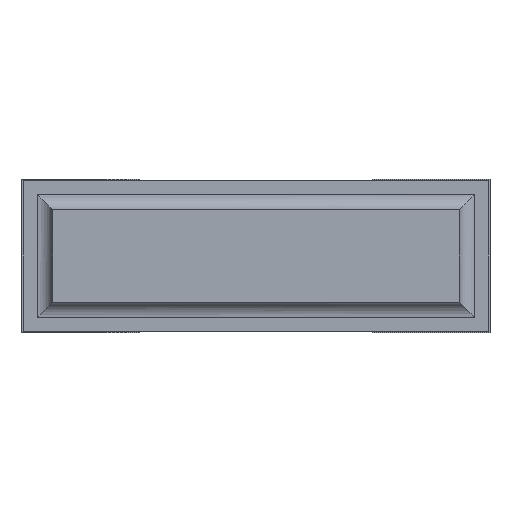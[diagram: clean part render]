
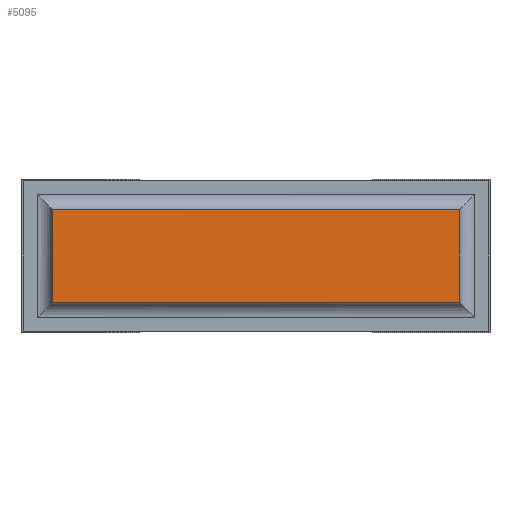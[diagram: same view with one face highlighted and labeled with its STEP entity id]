
A CAD part, front view. The second image highlights one B-rep face of the part: STEP entity #5095.
In plain terms, the highlighted planar face has unit normal (0, -1, 0).
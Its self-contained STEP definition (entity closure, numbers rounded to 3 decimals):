
#114=PLANE('',#5415);
#337=FACE_OUTER_BOUND('',#622,.T.);
#622=EDGE_LOOP('',(#3563,#3564,#3565,#3566));
#894=LINE('',#7227,#1550);
#898=LINE('',#7237,#1554);
#921=LINE('',#7286,#1577);
#924=LINE('',#7296,#1580);
#1550=VECTOR('',#5792,10.);
#1554=VECTOR('',#5802,10.);
#1577=VECTOR('',#5843,10.);
#1580=VECTOR('',#5858,10.);
#2239=VERTEX_POINT('',#7224);
#2240=VERTEX_POINT('',#7226);
#2243=VERTEX_POINT('',#7236);
#2260=VERTEX_POINT('',#7283);
#2736=EDGE_CURVE('',#2240,#2239,#894,.T.);
#2741=EDGE_CURVE('',#2243,#2240,#898,.T.);
#2766=EDGE_CURVE('',#2260,#2243,#921,.T.);
#2771=EDGE_CURVE('',#2239,#2260,#924,.T.);
#3563=ORIENTED_EDGE('',*,*,#2736,.T.);
#3564=ORIENTED_EDGE('',*,*,#2771,.T.);
#3565=ORIENTED_EDGE('',*,*,#2766,.T.);
#3566=ORIENTED_EDGE('',*,*,#2741,.T.);
#5095=ADVANCED_FACE('',(#337),#114,.T.);
#5415=AXIS2_PLACEMENT_3D('',#7301,#5864,#5865);
#5792=DIRECTION('',(0.,0.,-1.));
#5802=DIRECTION('',(-1.,0.,0.));
#5843=DIRECTION('',(0.,0.,1.));
#5858=DIRECTION('',(1.,0.,0.));
#5864=DIRECTION('center_axis',(0.,-1.,0.));
#5865=DIRECTION('ref_axis',(0.,0.,-1.));
#7224=CARTESIAN_POINT('',(0.1,0.,0.1));
#7226=CARTESIAN_POINT('',(0.1,0.,0.4));
#7227=CARTESIAN_POINT('',(0.1,0.,0.4));
#7236=CARTESIAN_POINT('',(1.42,0.,0.4));
#7237=CARTESIAN_POINT('',(1.42,0.,0.4));
#7283=CARTESIAN_POINT('',(1.42,0.,0.1));
#7286=CARTESIAN_POINT('',(1.42,0.,0.1));
#7296=CARTESIAN_POINT('',(0.1,0.,0.1));
#7301=CARTESIAN_POINT('Origin',(0.1,0.,0.25));
